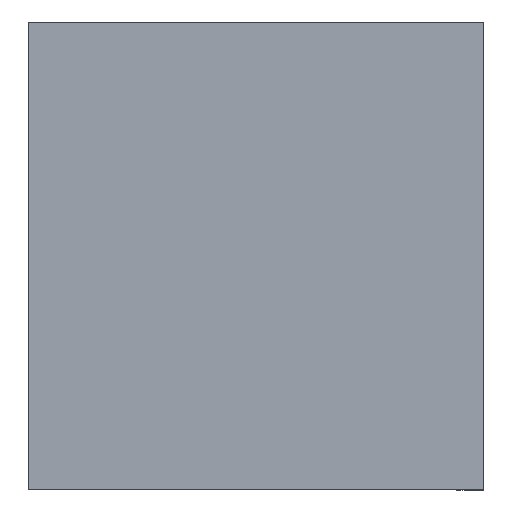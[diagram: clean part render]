
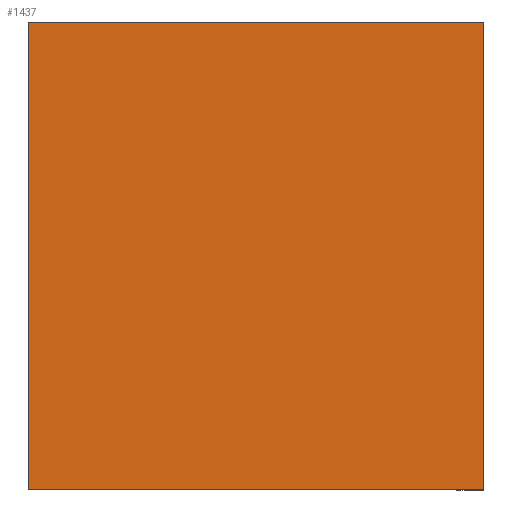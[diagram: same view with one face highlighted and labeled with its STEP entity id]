
A CAD part, left-side view. The second image highlights one B-rep face of the part: STEP entity #1437.
In plain terms, the highlighted planar face has unit normal (-1, 0, 0).
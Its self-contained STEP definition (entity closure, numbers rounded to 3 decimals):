
#162=LINE('',#2556,#266);
#181=LINE('',#2608,#285);
#183=LINE('',#2616,#287);
#184=LINE('',#2617,#288);
#266=VECTOR('',#1938,1000.);
#285=VECTOR('',#1977,1000.);
#287=VECTOR('',#1985,1000.);
#288=VECTOR('',#1986,1000.);
#377=FACE_OUTER_BOUND('',#476,.T.);
#476=EDGE_LOOP('',(#1168,#1169,#1170,#1171));
#673=VERTEX_POINT('',#2553);
#674=VERTEX_POINT('',#2555);
#697=VERTEX_POINT('',#2607);
#700=VERTEX_POINT('',#2615);
#839=EDGE_CURVE('',#673,#674,#162,.T.);
#865=EDGE_CURVE('',#697,#674,#181,.T.);
#869=EDGE_CURVE('',#700,#673,#183,.T.);
#870=EDGE_CURVE('',#700,#697,#184,.T.);
#1168=ORIENTED_EDGE('',*,*,#865,.T.);
#1169=ORIENTED_EDGE('',*,*,#839,.F.);
#1170=ORIENTED_EDGE('',*,*,#869,.F.);
#1171=ORIENTED_EDGE('',*,*,#870,.T.);
#1371=PLANE('',#1630);
#1437=ADVANCED_FACE('',(#377),#1371,.F.);
#1630=AXIS2_PLACEMENT_3D('',#2614,#1983,#1984);
#1938=DIRECTION('',(0.,-1.,0.));
#1977=DIRECTION('',(0.,0.,1.));
#1983=DIRECTION('center_axis',(1.,0.,0.));
#1984=DIRECTION('ref_axis',(0.,0.,-1.));
#1985=DIRECTION('',(0.,0.,1.));
#1986=DIRECTION('',(0.,-1.,0.));
#2553=CARTESIAN_POINT('',(-70.,30.,15.4));
#2555=CARTESIAN_POINT('',(-70.,0.,15.4));
#2556=CARTESIAN_POINT('',(-70.,30.,15.4));
#2607=CARTESIAN_POINT('',(-70.,0.,-15.4));
#2608=CARTESIAN_POINT('',(-70.,0.,-15.4));
#2614=CARTESIAN_POINT('Origin',(-70.,30.,-15.4));
#2615=CARTESIAN_POINT('',(-70.,30.,-15.4));
#2616=CARTESIAN_POINT('',(-70.,30.,-15.4));
#2617=CARTESIAN_POINT('',(-70.,30.,-15.4));
